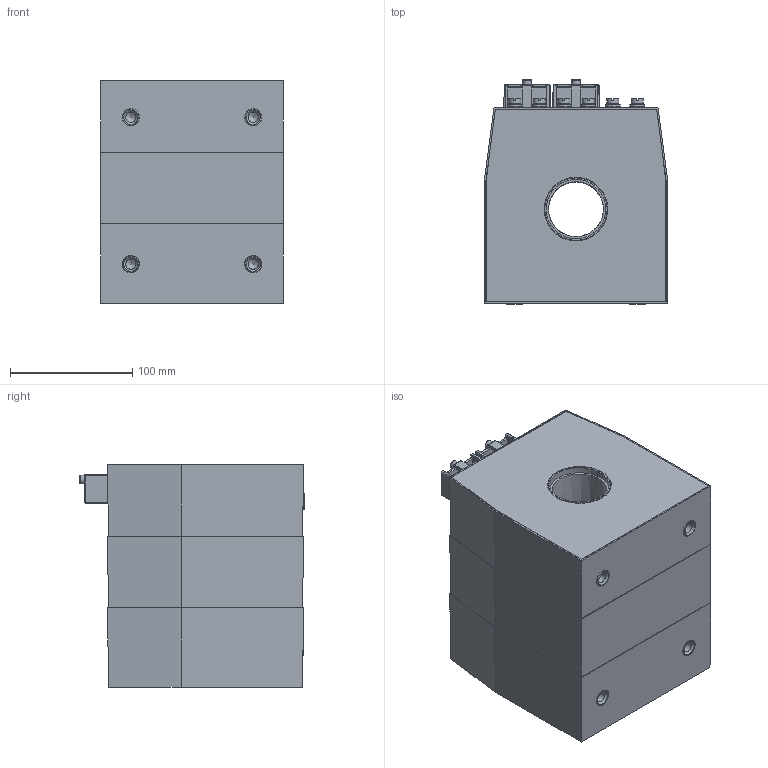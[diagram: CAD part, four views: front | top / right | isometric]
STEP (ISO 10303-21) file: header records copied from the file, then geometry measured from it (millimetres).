
FILE_DESCRIPTION(('STEP AP203'), '1');
FILE_NAME('Ñáîðêà ÒØ-ÍÒÇ-0,66-63 (45 ìì, 3-é ãàáàðèò)', '2025-04-11T10:16:08', ('UNSPECIFIED'), ('UNSPECIFIED'), 'ASCON STEP Converter 1.3', 'ASCON Math Kernel', '');
FILE_SCHEMA(('CONFIG_CONTROL_DESIGN'));
Length unit declared in the file: millimetre
Assembly tree (41 placements, depth 2):
  (unnamed)
    (unnamed)
    (unnamed)
    (unnamed)
    (unnamed)  x3
    (unnamed)  x4
    (unnamed)  x2
    (unnamed)  x6
    (unnamed)  x2
    (unnamed)  x6
    (unnamed)  x6
    (unnamed)  x6
    (unnamed)  x2
    (unnamed)
Bounding box: 150 x 183.76 x 182 mm (x, y, z)
Volume: 642181.9 mm3; surface area: 421164.8 mm2
Topology: 41 solids, 41 shells, 648 faces, 1434 edges, 894 vertices
Faces by surface type: plane 342, cylinder 189, cone 81, torus 20, bspline 16
Full cylindrical faces by diameter (mm): 3.244 x2, 3.95 x2, 4 x6, 4.5 x2, 4.8 x6, 4.92 x6, 6 x14, 6.4 x6, 7 x2, 7.1 x4, 8 x2, 8.376 x4, 10 x12, 10.1 x6, 12 x12, 14 x8, 17 x4, 45 x1, 48.599 x6, 48.6 x1, 51 x1, 55.05 x1, 58.6 x1, 65.05 x1, 68.6 x1
Entity records: 14268 total; most frequent: CARTESIAN_POINT 2825, DIRECTION 1590, ORIENTED_EDGE 1398, EDGE_CURVE 699, AXIS2_PLACEMENT_3D 576, VERTEX_POINT 493, EDGE_LOOP 474, LINE 438
